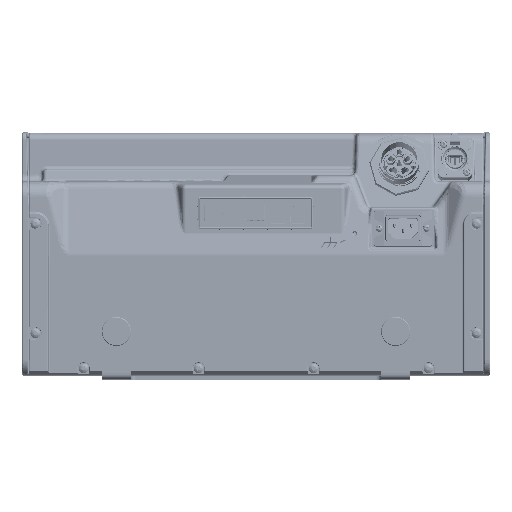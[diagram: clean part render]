
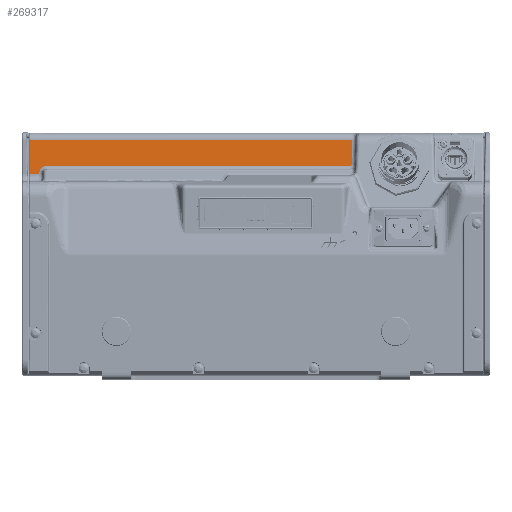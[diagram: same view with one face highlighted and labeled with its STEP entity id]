
A CAD part, front view. The second image highlights one B-rep face of the part: STEP entity #269317.
In plain terms, the highlighted planar face has unit normal (0, -0.999, 0.035).
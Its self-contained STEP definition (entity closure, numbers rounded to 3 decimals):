
#5006 = CARTESIAN_POINT ( 'NONE',  ( 821.194, 1000.152, 1491.034 ) ) ;
#15085 = CARTESIAN_POINT ( 'NONE',  ( 555.124, 1000.882, 1511.952 ) ) ;
#26147 = VERTEX_POINT ( 'NONE', #368257 ) ;
#29712 = DIRECTION ( 'NONE',  ( 1., 0., 0. ) ) ;
#30943 = CARTESIAN_POINT ( 'NONE',  ( 820.214, 1000.138, 1490.638 ) ) ;
#42105 = LINE ( 'NONE', #186281, #267974 ) ;
#44517 = CARTESIAN_POINT ( 'NONE',  ( 930.624, 1000.138, 1490.638 ) ) ;
#51458 = ORIENTED_EDGE ( 'NONE', *, *, #235615, .T. ) ;
#58868 = CARTESIAN_POINT ( 'NONE',  ( 555.124, 1001.085, 1517.743 ) ) ;
#59742 = VERTEX_POINT ( 'NONE', #188321 ) ;
#62782 = EDGE_CURVE ( 'NONE', #393268, #26147, #137347, .T. ) ;
#63733 = LINE ( 'NONE', #44517, #396421 ) ;
#66415 = CARTESIAN_POINT ( 'NONE',  ( 565.824, 999.89, 1483.533 ) ) ;
#69247 = CARTESIAN_POINT ( 'NONE',  ( 821.213, 1000.172, 1491.603 ) ) ;
#71507 = CARTESIAN_POINT ( 'NONE',  ( 820.214, 1000.138, 1490.638 ) ) ;
#76125 = CARTESIAN_POINT ( 'NONE',  ( 930.624, 1000.882, 1511.952 ) ) ;
#76540 = EDGE_CURVE ( 'NONE', #101420, #59742, #374674, .T. ) ;
#86144 = AXIS2_PLACEMENT_3D ( 'NONE', #313912, #341551, #348294 ) ;
#95688 = VECTOR ( 'NONE', #347811, 1000. ) ;
#99011 = PLANE ( 'NONE',  #86144 ) ;
#101420 = VERTEX_POINT ( 'NONE', #15085 ) ;
#101463 = LINE ( 'NONE', #76125, #291609 ) ;
#103292 = CARTESIAN_POINT ( 'NONE',  ( 568.946, 1000.138, 1490.638 ) ) ;
#111567 = EDGE_CURVE ( 'NONE', #154632, #171679, #42105, .T. ) ;
#113138 = DIRECTION ( 'NONE',  ( 0.017, 0.035, 0.999 ) ) ;
#132106 = DIRECTION ( 'NONE',  ( 0., -0.035, -0.999 ) ) ;
#137347 = LINE ( 'NONE', #208140, #95688 ) ;
#139958 = CARTESIAN_POINT ( 'NONE',  ( 821.924, 1000.882, 1511.952 ) ) ;
#142611 = ORIENTED_EDGE ( 'NONE', *, *, #414589, .T. ) ;
#150277 = CARTESIAN_POINT ( 'NONE',  ( 562.947, 999.932, 1484.743 ) ) ;
#154632 = VERTEX_POINT ( 'NONE', #188526 ) ;
#171679 = VERTEX_POINT ( 'NONE', #150277 ) ;
#174150 = CARTESIAN_POINT ( 'NONE',  ( 563.008, 1000.053, 1488.208 ) ) ;
#178989 = CARTESIAN_POINT ( 'NONE',  ( 820.784, 1000.138, 1490.638 ) ) ;
#183159 = CARTESIAN_POINT ( 'NONE',  ( 562.947, 999.932, 1484.743 ) ) ;
#186281 = CARTESIAN_POINT ( 'NONE',  ( 563.051, 1000.14, 1490.69 ) ) ;
#186939 = EDGE_LOOP ( 'NONE', ( #234714, #142611, #346045, #51458, #450505, #338497, #326549, #398227 ) ) ;
#188321 = CARTESIAN_POINT ( 'NONE',  ( 555.124, 999.89, 1483.533 ) ) ;
#188526 = CARTESIAN_POINT ( 'NONE',  ( 562.926, 999.89, 1483.533 ) ) ;
#194245 = EDGE_CURVE ( 'NONE', #59742, #154632, #279023, .T. ) ;
#197185 = VERTEX_POINT ( 'NONE', #30943 ) ;
#206396 = FACE_OUTER_BOUND ( 'NONE', #186939, .T. ) ;
#208140 = CARTESIAN_POINT ( 'NONE',  ( 822.096, 1001.054, 1516.872 ) ) ;
#234714 = ORIENTED_EDGE ( 'NONE', *, *, #394497, .T. ) ;
#235615 = EDGE_CURVE ( 'NONE', #393268, #101420, #101463, .T. ) ;
#247675 = VECTOR ( 'NONE', #132106, 1000. ) ;
#253503 =( BOUNDED_CURVE ( )  B_SPLINE_CURVE ( 3, ( #183159, #174150, #320503, #103292 ),
 .UNSPECIFIED., .F., .F. ) 
 B_SPLINE_CURVE_WITH_KNOTS ( ( 4, 4 ),
 ( 4.73, 6.283 ),
 .UNSPECIFIED. ) 
 CURVE ( )  GEOMETRIC_REPRESENTATION_ITEM ( )  RATIONAL_B_SPLINE_CURVE ( ( 1., 0.809, 0.809, 1. ) ) 
 REPRESENTATION_ITEM ( '' )  );
#267974 = VECTOR ( 'NONE', #113138, 1000. ) ;
#269317 = ADVANCED_FACE ( 'NONE', ( #206396 ), #99011, .T. ) ;
#274352 = VERTEX_POINT ( 'NONE', #368742 ) ;
#279023 = LINE ( 'NONE', #66415, #314443 ) ;
#287069 = DIRECTION ( 'NONE',  ( 1., 0., 0. ) ) ;
#291609 = VECTOR ( 'NONE', #385119, 1000. ) ;
#313912 = CARTESIAN_POINT ( 'NONE',  ( 930.624, 1001.085, 1517.743 ) ) ;
#314443 = VECTOR ( 'NONE', #29712, 1000. ) ;
#320503 = CARTESIAN_POINT ( 'NONE',  ( 565.48, 1000.138, 1490.638 ) ) ;
#326549 = ORIENTED_EDGE ( 'NONE', *, *, #111567, .T. ) ;
#338497 = ORIENTED_EDGE ( 'NONE', *, *, #194245, .T. ) ;
#341551 = DIRECTION ( 'NONE',  ( 0., -0.999, 0.035 ) ) ;
#346045 = ORIENTED_EDGE ( 'NONE', *, *, #62782, .F. ) ;
#347811 = DIRECTION ( 'NONE',  ( -0.035, -0.035, -0.999 ) ) ;
#348294 = DIRECTION ( 'NONE',  ( 0., 0.035, 0.999 ) ) ;
#368257 = CARTESIAN_POINT ( 'NONE',  ( 821.213, 1000.172, 1491.603 ) ) ;
#368742 = CARTESIAN_POINT ( 'NONE',  ( 568.946, 1000.138, 1490.638 ) ) ;
#374674 = LINE ( 'NONE', #58868, #247675 ) ;
#378813 = EDGE_CURVE ( 'NONE', #171679, #274352, #253503, .T. ) ;
#385119 = DIRECTION ( 'NONE',  ( -1., 0., 0. ) ) ;
#393268 = VERTEX_POINT ( 'NONE', #139958 ) ;
#394497 = EDGE_CURVE ( 'NONE', #274352, #197185, #63733, .T. ) ;
#395248 =( BOUNDED_CURVE ( )  B_SPLINE_CURVE ( 3, ( #71507, #178989, #5006, #69247 ),
 .UNSPECIFIED., .F., .T. ) 
 B_SPLINE_CURVE_WITH_KNOTS ( ( 4, 4 ),
 ( 0., 1.536 ),
 .UNSPECIFIED. ) 
 CURVE ( )  GEOMETRIC_REPRESENTATION_ITEM ( )  RATIONAL_B_SPLINE_CURVE ( ( 1., 0.813, 0.813, 1. ) ) 
 REPRESENTATION_ITEM ( '' )  );
#396421 = VECTOR ( 'NONE', #287069, 1000. ) ;
#398227 = ORIENTED_EDGE ( 'NONE', *, *, #378813, .T. ) ;
#414589 = EDGE_CURVE ( 'NONE', #197185, #26147, #395248, .T. ) ;
#450505 = ORIENTED_EDGE ( 'NONE', *, *, #76540, .T. ) ;
